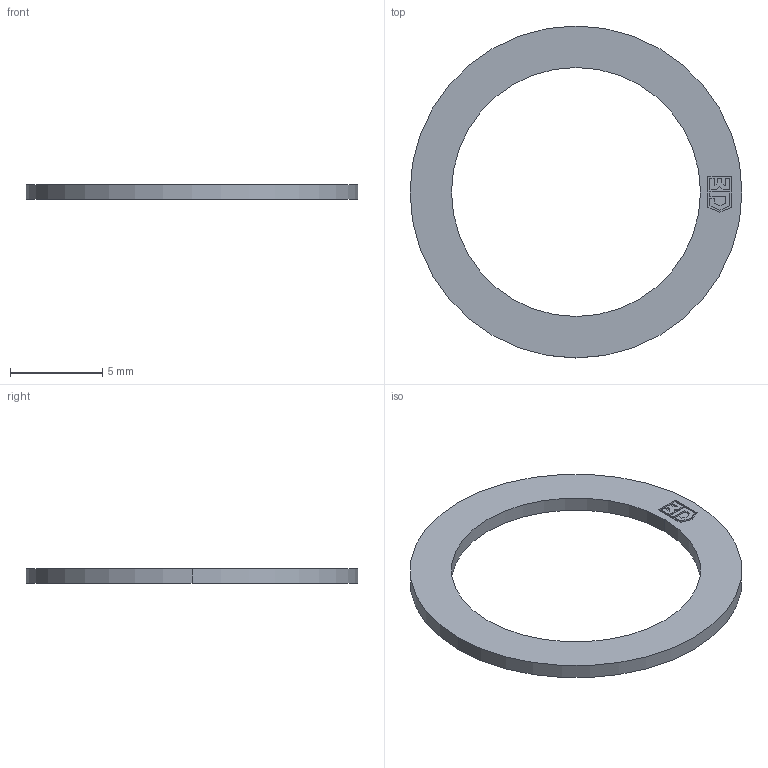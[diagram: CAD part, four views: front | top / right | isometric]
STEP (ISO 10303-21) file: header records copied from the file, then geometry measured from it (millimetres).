
FILE_DESCRIPTION (( 'STEP AP203' ), '1' );
FILE_NAME ('DM320-13.5.STEP', '2007-02-21T11:57:02', ( ' ' ), ( '' ), 'SwSTEP 2.0', 'SolidWorks 2005278', '' );
FILE_SCHEMA (( 'CONFIG_CONTROL_DESIGN' ));
Length unit declared in the file: millimetre
Products named in the file (1): DM320-13.5
Bounding box: 18 x 18 x 0.8 mm (x, y, z)
Volume: 88.9 mm3; surface area: 303.5 mm2
Topology: 1 solids, 1 shells, 43 faces, 114 edges, 76 vertices
Faces by surface type: plane 39, cylinder 4
Entity records: 1397 total; most frequent: CARTESIAN_POINT 234, ORIENTED_EDGE 228, DIRECTION 210, EDGE_CURVE 114, LINE 106, VECTOR 106, VERTEX_POINT 76, AXIS2_PLACEMENT_3D 52
